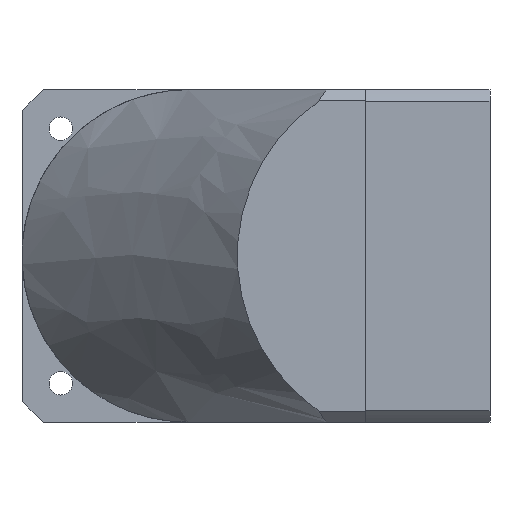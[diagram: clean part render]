
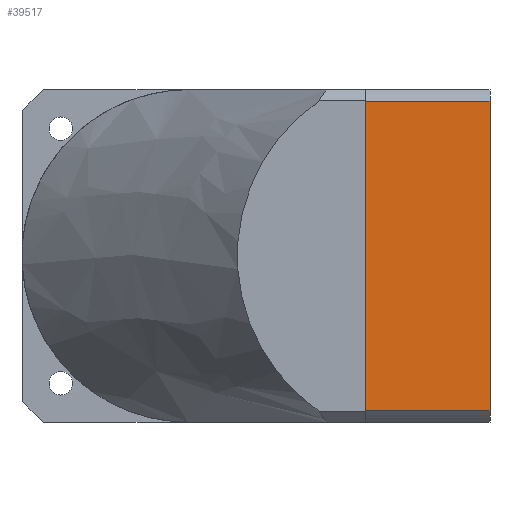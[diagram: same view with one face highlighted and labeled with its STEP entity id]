
A CAD part, front view. The second image highlights one B-rep face of the part: STEP entity #39517.
In plain terms, the highlighted planar face has unit normal (0, -1, 0).
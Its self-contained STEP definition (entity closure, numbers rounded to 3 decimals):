
#1237 = DIRECTION ( 'NONE',  ( 0., 0., 1. ) ) ;
#1414 = CARTESIAN_POINT ( 'NONE',  ( -55.893, -60., 0. ) ) ;
#4280 = DIRECTION ( 'NONE',  ( -1., 0., 0. ) ) ;
#6341 = CARTESIAN_POINT ( 'NONE',  ( 55.893, -60., -45. ) ) ;
#10136 = LINE ( 'NONE', #37931, #18607 ) ;
#12033 = VERTEX_POINT ( 'NONE', #40039 ) ;
#12842 = CARTESIAN_POINT ( 'NONE',  ( -55.893, -60., -45. ) ) ;
#13636 = VECTOR ( 'NONE', #19381, 1000. ) ;
#15132 = ORIENTED_EDGE ( 'NONE', *, *, #45607, .T. ) ;
#15208 = CARTESIAN_POINT ( 'NONE',  ( -60., -60., -45. ) ) ;
#15684 = AXIS2_PLACEMENT_3D ( 'NONE', #15208, #40358, #18839 ) ;
#15857 = EDGE_CURVE ( 'NONE', #20661, #12033, #33880, .T. ) ;
#18607 = VECTOR ( 'NONE', #33854, 1000. ) ;
#18839 = DIRECTION ( 'NONE',  ( 0., 0., -1. ) ) ;
#19381 = DIRECTION ( 'NONE',  ( 0., 0., 1. ) ) ;
#20661 = VERTEX_POINT ( 'NONE', #12842 ) ;
#25839 = CARTESIAN_POINT ( 'NONE',  ( 0., -60., 0. ) ) ;
#27596 = VECTOR ( 'NONE', #4280, 1000. ) ;
#27940 = VERTEX_POINT ( 'NONE', #6341 ) ;
#28630 = ORIENTED_EDGE ( 'NONE', *, *, #30009, .T. ) ;
#30009 = EDGE_CURVE ( 'NONE', #20661, #27940, #10136, .T. ) ;
#30289 = ORIENTED_EDGE ( 'NONE', *, *, #15857, .F. ) ;
#30427 = EDGE_CURVE ( 'NONE', #27940, #35663, #35529, .T. ) ;
#33854 = DIRECTION ( 'NONE',  ( 1., 0., 0. ) ) ;
#33880 = LINE ( 'NONE', #1414, #13636 ) ;
#34406 = VECTOR ( 'NONE', #1237, 1000. ) ;
#35529 = LINE ( 'NONE', #44320, #34406 ) ;
#35663 = VERTEX_POINT ( 'NONE', #36450 ) ;
#36450 = CARTESIAN_POINT ( 'NONE',  ( 55.893, -60., 0. ) ) ;
#37116 = LINE ( 'NONE', #25839, #27596 ) ;
#37931 = CARTESIAN_POINT ( 'NONE',  ( -60., -60., -45. ) ) ;
#39517 = ADVANCED_FACE ( 'NONE', ( #43616 ), #40195, .T. ) ;
#39906 = ORIENTED_EDGE ( 'NONE', *, *, #30427, .T. ) ;
#40039 = CARTESIAN_POINT ( 'NONE',  ( -55.893, -60., 0. ) ) ;
#40195 = PLANE ( 'NONE',  #15684 ) ;
#40358 = DIRECTION ( 'NONE',  ( 0., -1., 0. ) ) ;
#43616 = FACE_OUTER_BOUND ( 'NONE', #44977, .T. ) ;
#44320 = CARTESIAN_POINT ( 'NONE',  ( 55.893, -60., -45. ) ) ;
#44977 = EDGE_LOOP ( 'NONE', ( #39906, #15132, #30289, #28630 ) ) ;
#45607 = EDGE_CURVE ( 'NONE', #35663, #12033, #37116, .T. ) ;
